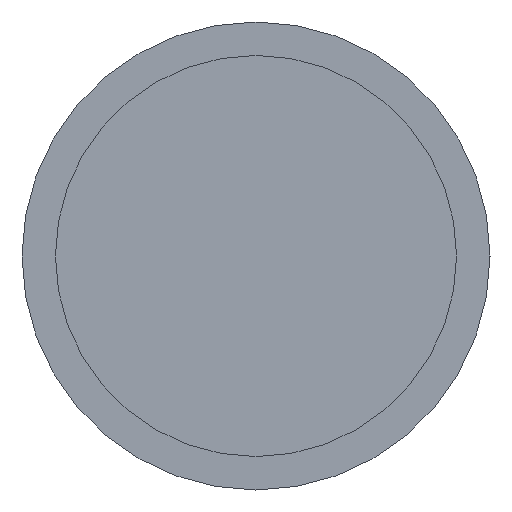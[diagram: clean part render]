
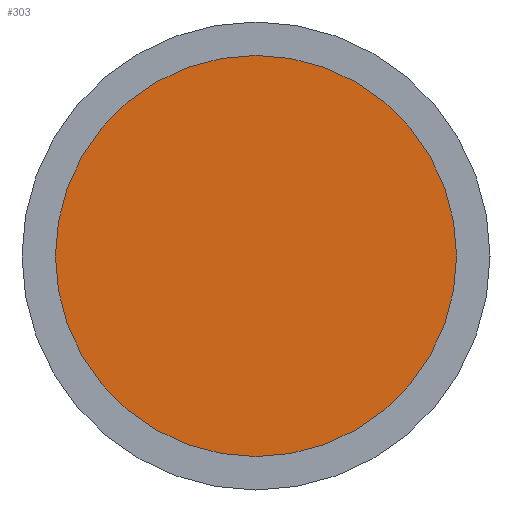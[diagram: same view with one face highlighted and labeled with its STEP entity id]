
A CAD part, front view. The second image highlights one B-rep face of the part: STEP entity #303.
In plain terms, the highlighted planar face has unit normal (0, -1, 0).
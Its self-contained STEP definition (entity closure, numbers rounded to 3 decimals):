
#1 = CARTESIAN_POINT ( 'NONE',  ( 0., 0., -7.5 ) ) ;
#17 = EDGE_CURVE ( 'NONE', #24, #24, #226, .T. ) ;
#24 = VERTEX_POINT ( 'NONE', #1 ) ;
#34 = ORIENTED_EDGE ( 'NONE', *, *, #17, .T. ) ;
#76 = DIRECTION ( 'NONE',  ( 0., 0., -1. ) ) ;
#80 = CARTESIAN_POINT ( 'NONE',  ( 0., 0., 0. ) ) ;
#149 = PLANE ( 'NONE',  #163 ) ;
#163 = AXIS2_PLACEMENT_3D ( 'NONE', #80, #285, #317 ) ;
#171 = CARTESIAN_POINT ( 'NONE',  ( 0., 0., 0. ) ) ;
#175 = FACE_OUTER_BOUND ( 'NONE', #339, .T. ) ;
#176 = AXIS2_PLACEMENT_3D ( 'NONE', #171, #312, #76 ) ;
#226 = CIRCLE ( 'NONE', #176, 7.5 ) ;
#285 = DIRECTION ( 'NONE',  ( 0., -1., 0. ) ) ;
#303 = ADVANCED_FACE ( 'NONE', ( #175 ), #149, .T. ) ;
#312 = DIRECTION ( 'NONE',  ( 0., -1., 0. ) ) ;
#317 = DIRECTION ( 'NONE',  ( 0., 0., -1. ) ) ;
#339 = EDGE_LOOP ( 'NONE', ( #34 ) ) ;
